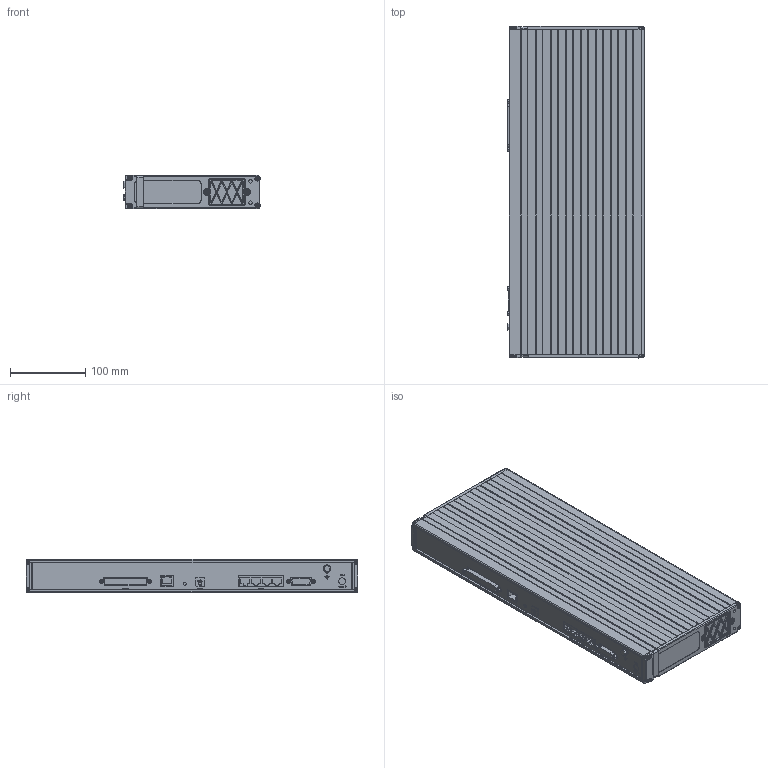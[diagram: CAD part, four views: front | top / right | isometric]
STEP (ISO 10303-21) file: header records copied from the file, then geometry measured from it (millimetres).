
FILE_DESCRIPTION(/* description */ (''),/* implementation_level */ '2;1');
FILE_NAME(/* name */ 'LA-5623-0100_A.stp',/* time_stamp */ '2018-06-08T08:05:43+01:00',/* author */ (''),/* organization */ (''),/* preprocessor_version */ 'ST-DEVELOPER v16',/* originating_system */ 'SIEMENS PLM Software NX 10.0',/* authorisation */ '');
FILE_SCHEMA (('AUTOMOTIVE_DESIGN { 1 0 10303 214 3 1 1 1 }'));
Products named in the file (1): aj060C2C93DFzs3t
Bounding box: 181.1 x 440 x 44.09 mm (x, y, z)
Volume: 522334.3 mm3; surface area: 471218.9 mm2
Topology: 1 solids, 2 shells, 2933 faces, 7594 edges, 4687 vertices
Faces by surface type: plane 1236, cylinder 940, torus 240, cone 201, bspline 162, extrusion 78, sphere 76
Full cylindrical faces by diameter (mm): 2 x4, 2.214 x1, 2.35 x4, 2.5 x2, 2.845 x4, 2.9 x8, 3.1 x6, 3.2 x8, 3.5 x4, 3.8 x6, 4 x1, 4.351 x4, 5 x3, 5.39 x1, 5.5 x8, 6.7 x4, 7.5 x1, 8 x1, 9 x1, 9.82 x1, 10 x1
Entity records: 111281 total; most frequent: CARTESIAN_POINT 23498, DIRECTION 14694, ORIENTED_EDGE 14602, EDGE_CURVE 7301, AXIS2_PLACEMENT_3D 5410, VERTEX_POINT 4602, VECTOR 3874, LINE 3796
